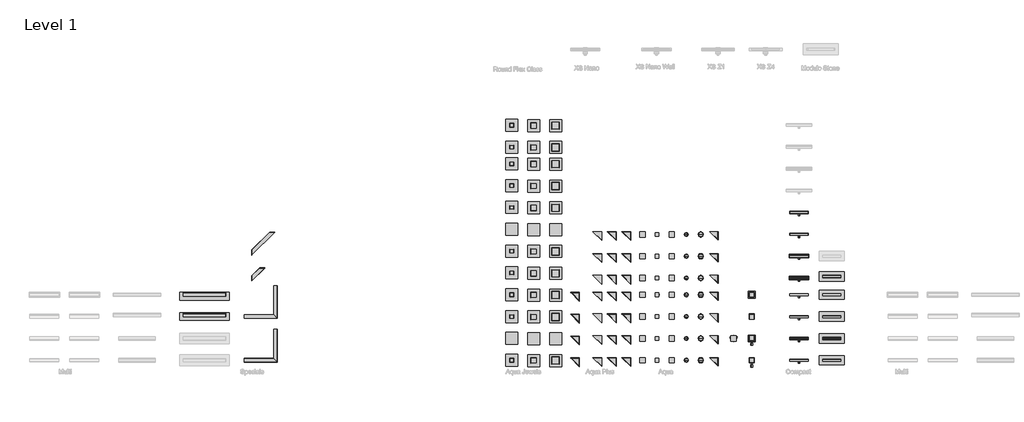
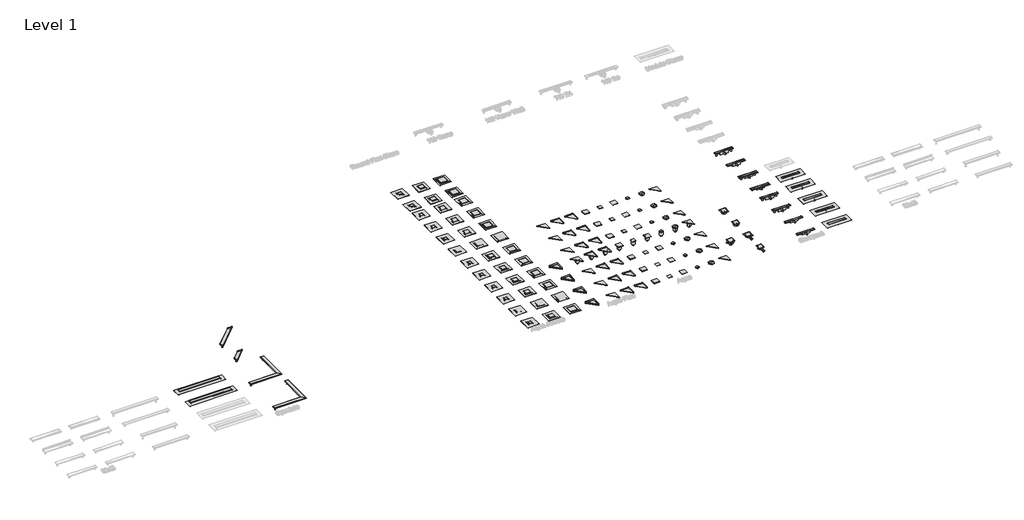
# One storey, part 3 of 23: 136 sanitary terminals.
"""IFC4 building model written with IfcOpenShell, lengths in millimetres."""

from ifc_helpers import new_model, si_unit, origin, place, context, project, spatial, transform, mapped, element, save
from components import sanitary_terminal_1823a797, sanitary_terminal_2f80e022, sanitary_terminal_5b34698b, sanitary_terminal_2ebfcd1c, sanitary_terminal_eb8b4586, sanitary_terminal_f8d560c6, sanitary_terminal_cf954fec, sanitary_terminal_14f323dd, sanitary_terminal_3431c1f4, sanitary_terminal_5c7f7aa6, sanitary_terminal_14ebe62b, sanitary_terminal_cd1ec674, sanitary_terminal_4a5be464, sanitary_terminal_ab72299f, sanitary_terminal_dddee02a, sanitary_terminal_49c4bee3, black_glass_10x10_94a9755f, black_glass_15x15_4ec12fde, black_glass_20x20_2d4f7b62, compact_d3044acb, compact_a988ca50, compact_608fc20b, compact_45fd4abb, compact_89d7015a, compact_d6b970c3, compact_b74792c9, compact_6f6b42fc, compact_ff_9ca3e479, compact_ff_39878ad4, compact_ff_16e5568f, compact_ff_ca326670, compact_ff_tile_d9a49791, compact_flange_e84be961, compact_flange_697ba35e, compact_tile_2c210a84, compact_tile_8fcec66e, multi_taf_wall_horizontal_outlet_high_50mm_fefc41ae, tile_10x10_495e2d9a, tile_10x10_58bf98e1, tile_15x15_625d1f21, tile_15x15_8973f844, tile_20x20_1db265bf, tile_20x20_2fca3c0a

model = new_model("IFC4")

# Units and contexts
model_context = context("Model", 3, world=origin())
ifc_project = project(units=[si_unit("LENGTHUNIT", "METRE", prefix="MILLI")], contexts=[model_context])

# Site, building, storey
site = spatial("IfcSite", under=ifc_project)
building = spatial("IfcBuilding", under=site)
storey = spatial("IfcBuildingStorey", under=building, Name="Level 1", Elevation=0.0)

# Sanitary terminals
placement = place(None, origin())
sanitary_terminal_shape = sanitary_terminal_1823a797(model_context)
element("IfcSanitaryTerminal", 1, ObjectType="NLRS_PF_52_UN_Aqua Brilliant_Easydrain : Brilliant onderuitloop 50mm", at=placement, inside=storey, context=model_context, shape_type="MappedRepresentation", body=[
    mapped(sanitary_terminal_shape, transform((60100.0, 8300.0, 0.0), x_axis=(1.0, 0.0, 0.0), y_axis=(0.0, 1.0, 0.0), z_axis=(0.0, 0.0, 1.0))),
])
sanitary_terminal_2_shape = sanitary_terminal_2f80e022(model_context)
element("IfcSanitaryTerminal", 2, ObjectType="NLRS_PF_52_UN_Aqua Delta_in_uitloop_Easydrain : Aqua Delta onderuitloop 50mm, zij-ingang 40mm", at=placement, inside=storey, context=model_context, shape_type="MappedRepresentation", body=[
    mapped(sanitary_terminal_2_shape, transform((59600.0, 10560.0, 0.0), x_axis=(1.0, 0.0, 0.0), y_axis=(0.0, 1.0, 0.0), z_axis=(0.0, 0.0, 1.0))),
])
element("IfcSanitaryTerminal", 3, ObjectType="NLRS_PF_52_UN_Aqua Delta_in_uitloop_Easydrain : Aqua Delta onderuitloop 50mm, zij-ingang 50mm", at=placement, inside=storey, context=model_context, shape_type="MappedRepresentation", body=[
    mapped(sanitary_terminal_2_shape, transform((59600.0, 11160.0, 0.0), x_axis=(1.0, 0.0, 0.0), y_axis=(0.0, 1.0, 0.0), z_axis=(0.0, 0.0, 1.0))),
])
element("IfcSanitaryTerminal", 4, ObjectType="NLRS_PF_52_UN_Aqua Delta_in_uitloop_Easydrain : Aqua Delta zijuitloop hoog 50mm, zij-ingang 40mm", at=placement, inside=storey, context=model_context, shape_type="MappedRepresentation", body=[
    mapped(sanitary_terminal_2_shape, transform((59600.0, 9960.0, 0.0), x_axis=(1.0, 0.0, 0.0), y_axis=(0.0, 1.0, 0.0), z_axis=(0.0, 0.0, 1.0))),
])
sanitary_terminal_3_shape = sanitary_terminal_5b34698b(model_context)
element("IfcSanitaryTerminal", 5, ObjectType="NLRS_PF_52_UN_Aqua Jewels Delta_in_uitloop_Easydrain : Aqua Jewels Delta zijuitloop hoog 50mm, zij-ingang 40mm", at=placement, inside=storey, context=model_context, shape_type="MappedRepresentation", body=[
    mapped(sanitary_terminal_3_shape, transform((55800.0, 8900.0, 0.0), x_axis=(1.0, 0.0, 0.0), y_axis=(0.0, 1.0, 0.0), z_axis=(0.0, 0.0, 1.0))),
])
element("IfcSanitaryTerminal", 6, ObjectType="NLRS_PF_52_UN_Aqua Jewels Delta_uitloop_Easydrain : Aqua Jewels Delta horizontal outlet low 40mm", at=placement, inside=storey, context=model_context, shape_type="MappedRepresentation", body=[
    mapped(sanitary_terminal_3_shape, transform((55800.0, 7700.0, 0.0), x_axis=(1.0, 0.0, 0.0), y_axis=(0.0, 1.0, 0.0), z_axis=(0.0, 0.0, 1.0))),
])
sanitary_terminal_4_shape = sanitary_terminal_2ebfcd1c(model_context)
element("IfcSanitaryTerminal", 7, ObjectType="NLRS_PF_52_UN_Aqua Plus Delta_in_uitloop_Easydrain : Aqua Plus Delta onderuitloop 50mm, zij-ingang 40mm", at=placement, inside=storey, context=model_context, shape_type="MappedRepresentation", body=[
    mapped(sanitary_terminal_4_shape, transform((56400.0, 10560.0, 0.0), x_axis=(1.0, 0.0, 0.0), y_axis=(0.0, 1.0, 0.0), z_axis=(0.0, 0.0, 1.0))),
])
element("IfcSanitaryTerminal", 8, ObjectType="NLRS_PF_52_UN_Aqua Plus Delta_in_uitloop_Easydrain : Aqua Plus Delta onderuitloop 50mm, zij-ingang 50mm", at=placement, inside=storey, context=model_context, shape_type="MappedRepresentation", body=[
    mapped(sanitary_terminal_4_shape, transform((56400.0, 11160.0, 0.0), x_axis=(1.0, 0.0, 0.0), y_axis=(0.0, 1.0, 0.0), z_axis=(0.0, 0.0, 1.0))),
])
element("IfcSanitaryTerminal", 9, ObjectType="NLRS_PF_52_UN_Aqua Plus Delta_in_uitloop_Easydrain : Aqua Plus Delta zijuitloop hoog 50mm, zij-ingang 40mm", at=placement, inside=storey, context=model_context, shape_type="MappedRepresentation", body=[
    mapped(sanitary_terminal_4_shape, transform((56400.0, 9960.0, 0.0), x_axis=(1.0, 0.0, 0.0), y_axis=(0.0, 1.0, 0.0), z_axis=(0.0, 0.0, 1.0))),
])
sanitary_terminal_5_shape = sanitary_terminal_eb8b4586(model_context)
element("IfcSanitaryTerminal", 10, ObjectType="NLRS_PF_52_UN_Aqua Plus Quattro_in_uitloop_Easydrain : Aqua Plus Quattro zijuitloop hoog 50mm, zij-ingang 40mm", at=placement, inside=storey, context=model_context, shape_type="MappedRepresentation", body=[
    mapped(sanitary_terminal_5_shape, transform((57600.0, 9960.0, 0.0), x_axis=(1.0, 0.0, 0.0), y_axis=(0.0, 1.0, 0.0), z_axis=(0.0, 0.0, 1.0))),
])
element("IfcSanitaryTerminal", 11, ObjectType="NLRS_PF_52_UN_Aqua Plus Quattro_in_uitloop_Easydrain : Aqua Plus Quattro onderuitloop 50mm, zij-ingang 40mm", at=placement, inside=storey, context=model_context, shape_type="MappedRepresentation", body=[
    mapped(sanitary_terminal_5_shape, transform((57600.0, 10560.0, 0.0), x_axis=(1.0, 0.0, 0.0), y_axis=(0.0, 1.0, 0.0), z_axis=(0.0, 0.0, 1.0))),
])
element("IfcSanitaryTerminal", 12, ObjectType="NLRS_PF_52_UN_Aqua Plus Quattro_in_uitloop_Easydrain : Aqua Plus Quattro onderuitloop 50mm, zij-ingang 50mm", at=placement, inside=storey, context=model_context, shape_type="MappedRepresentation", body=[
    mapped(sanitary_terminal_5_shape, transform((57600.0, 11160.0, 0.0), x_axis=(1.0, 0.0, 0.0), y_axis=(0.0, 1.0, 0.0), z_axis=(0.0, 0.0, 1.0))),
])
sanitary_terminal_6_shape = sanitary_terminal_f8d560c6(model_context)
element("IfcSanitaryTerminal", 13, ObjectType="NLRS_PF_52_UN_Aqua Quattro_in_uitloop_Easydrain : Aqua Quattro onderuitloop 50mm, zij-ingang 40mm", at=placement, inside=storey, context=model_context, shape_type="MappedRepresentation", body=[
    mapped(sanitary_terminal_6_shape, transform((58000.0, 10560.0, 0.0), x_axis=(1.0, 0.0, 0.0), y_axis=(0.0, 1.0, 0.0), z_axis=(0.0, 0.0, 1.0))),
])
element("IfcSanitaryTerminal", 14, ObjectType="NLRS_PF_52_UN_Aqua Quattro_in_uitloop_Easydrain : Aqua Quattro zijuitloop hoog 50mm, zij-ingang 40mm", at=placement, inside=storey, context=model_context, shape_type="MappedRepresentation", body=[
    mapped(sanitary_terminal_6_shape, transform((58000.0, 9960.0, 0.0), x_axis=(1.0, 0.0, 0.0), y_axis=(0.0, 1.0, 0.0), z_axis=(0.0, 0.0, 1.0))),
])
element("IfcSanitaryTerminal", 15, ObjectType="NLRS_PF_52_UN_Aqua Quattro_in_uitloop_Easydrain : Aqua Quattro zijuitloop hoog 50mm, zij-ingang 40mm", at=placement, inside=storey, context=model_context, shape_type="MappedRepresentation", body=[
    mapped(sanitary_terminal_6_shape, transform((58000.0, 11160.0, 0.0), x_axis=(1.0, 0.0, 0.0), y_axis=(0.0, 1.0, 0.0), z_axis=(0.0, 0.0, 1.0))),
])
sanitary_terminal_7_shape = sanitary_terminal_cf954fec(model_context)
element("IfcSanitaryTerminal", 16, ObjectType="NLRS_PF_52_UN_Aqua Round_in_uitloop_Easydrain : Aqua Round onderuitloop 50mm, zij-ingang 40mm", at=placement, inside=storey, context=model_context, shape_type="MappedRepresentation", body=[
    mapped(sanitary_terminal_7_shape, transform((58800.0, 10560.0, 0.0), x_axis=(1.0, 0.0, 0.0), y_axis=(0.0, 1.0, 0.0), z_axis=(0.0, 0.0, 1.0))),
])
element("IfcSanitaryTerminal", 17, ObjectType="NLRS_PF_52_UN_Aqua Round_in_uitloop_Easydrain : Aqua Round onderuitloop 50mm, zij-ingang 50mm", at=placement, inside=storey, context=model_context, shape_type="MappedRepresentation", body=[
    mapped(sanitary_terminal_7_shape, transform((58800.0, 11160.0, 0.0), x_axis=(1.0, 0.0, 0.0), y_axis=(0.0, 1.0, 0.0), z_axis=(0.0, 0.0, 1.0))),
])
element("IfcSanitaryTerminal", 18, ObjectType="NLRS_PF_52_UN_Aqua Round_in_uitloop_Easydrain : Aqua Round zijuitloop hoog 50mm, zij-ingang 40mm", at=placement, inside=storey, context=model_context, shape_type="MappedRepresentation", body=[
    mapped(sanitary_terminal_7_shape, transform((58800.0, 9960.0, 0.0), x_axis=(1.0, 0.0, 0.0), y_axis=(0.0, 1.0, 0.0), z_axis=(0.0, 0.0, 1.0))),
])
sanitary_terminal_8_shape = sanitary_terminal_14f323dd(model_context)
element("IfcSanitaryTerminal", 19, ObjectType="NLRS_PF_52_UN_Multi Square in_uitloop_Easydrain : Multi Square zijuitloop hoog 50mm, zij-ingang 40mm", at=placement, inside=storey, context=model_context, shape_type="MappedRepresentation", body=[
    mapped(sanitary_terminal_8_shape, transform((46649.785592, 9750.0, 0.0), x_axis=(1.0, 0.0, 0.0), y_axis=(0.0, 1.0, 0.0), z_axis=(0.0, 0.0, 1.0))),
])
sanitary_terminal_9_shape = sanitary_terminal_3431c1f4(model_context)
element("IfcSanitaryTerminal", 20, ObjectType="NLRS_PF_52_UN_Multi Trapezium uitloop_Easydrain : Multi Trapezium horizontal outlet low 40mm", at=placement, inside=storey, context=model_context, shape_type="MappedRepresentation", body=[
    mapped(sanitary_terminal_9_shape, transform((46855.6192717, 10236.1309771, 0.0), x_axis=(1.0, 0.0, 0.0), y_axis=(0.0, 1.0, 0.0), z_axis=(0.0, 0.0, 1.0))),
])
sanitary_terminal_10_shape = sanitary_terminal_5c7f7aa6(model_context)
element("IfcSanitaryTerminal", 21, ObjectType="NLRS_PF_52_UN_Aqua Plus Delta_in_uitloop_Easydrain : Aqua Plus Delta zijuitloop hoog 50mm, zij-ingang 40mm", at=placement, inside=storey, context=model_context, shape_type="MappedRepresentation", body=[
    mapped(sanitary_terminal_10_shape, transform((56800.0, 9960.0, 0.0), x_axis=(1.0, 0.0, 0.0), y_axis=(0.0, 1.0, 0.0), z_axis=(0.0, 0.0, 1.0))),
])
element("IfcSanitaryTerminal", 22, ObjectType="NLRS_PF_52_UN_Aqua Plus Delta_in_uitloop_Easydrain : Aqua Plus Delta onderuitloop 50mm, zij-ingang 40mm", at=placement, inside=storey, context=model_context, shape_type="MappedRepresentation", body=[
    mapped(sanitary_terminal_10_shape, transform((56800.0, 10560.0, 0.0), x_axis=(1.0, 0.0, 0.0), y_axis=(0.0, 1.0, 0.0), z_axis=(0.0, 0.0, 1.0))),
])
element("IfcSanitaryTerminal", 23, ObjectType="NLRS_PF_52_UN_Aqua Plus Delta_in_uitloop_Easydrain : Aqua Plus Delta onderuitloop 50mm, zij-ingang 50mm", at=placement, inside=storey, context=model_context, shape_type="MappedRepresentation", body=[
    mapped(sanitary_terminal_10_shape, transform((56800.0, 11160.0, 0.0), x_axis=(1.0, 0.0, 0.0), y_axis=(0.0, 1.0, 0.0), z_axis=(0.0, 0.0, 1.0))),
])
element("IfcSanitaryTerminal", 24, ObjectType="NLRS_PF_52_UN_Aqua Plus Delta_in_uitloop_Easydrain : Aqua Plus Delta zijuitloop hoog 50mm, zij-ingang 40mm", at=placement, inside=storey, context=model_context, shape_type="MappedRepresentation", body=[
    mapped(sanitary_terminal_10_shape, transform((57200.0, 9960.0, 0.0), x_axis=(1.0, 0.0, 0.0), y_axis=(0.0, 1.0, 0.0), z_axis=(0.0, 0.0, 1.0))),
])
element("IfcSanitaryTerminal", 25, ObjectType="NLRS_PF_52_UN_Aqua Plus Delta_in_uitloop_Easydrain : Aqua Plus Delta onderuitloop 50mm, zij-ingang 40mm", at=placement, inside=storey, context=model_context, shape_type="MappedRepresentation", body=[
    mapped(sanitary_terminal_10_shape, transform((57200.0, 10560.0, 0.0), x_axis=(1.0, 0.0, 0.0), y_axis=(0.0, 1.0, 0.0), z_axis=(0.0, 0.0, 1.0))),
])
element("IfcSanitaryTerminal", 26, ObjectType="NLRS_PF_52_UN_Aqua Plus Delta_in_uitloop_Easydrain : Aqua Plus Delta onderuitloop 50mm, zij-ingang 50mm", at=placement, inside=storey, context=model_context, shape_type="MappedRepresentation", body=[
    mapped(sanitary_terminal_10_shape, transform((57200.0, 11160.0, 0.0), x_axis=(1.0, 0.0, 0.0), y_axis=(0.0, 1.0, 0.0), z_axis=(0.0, 0.0, 1.0))),
])
sanitary_terminal_11_shape = sanitary_terminal_14ebe62b(model_context)
element("IfcSanitaryTerminal", 27, ObjectType="NLRS_PF_52_UN_Aqua Quattro_in_uitloop_Easydrain : Aqua Quattro zijuitloop hoog 50mm, zij-ingang 40mm", at=placement, inside=storey, context=model_context, shape_type="MappedRepresentation", body=[
    mapped(sanitary_terminal_11_shape, transform((58400.0, 9960.0, 0.0), x_axis=(1.0, 0.0, 0.0), y_axis=(0.0, 1.0, 0.0), z_axis=(0.0, 0.0, 1.0))),
])
element("IfcSanitaryTerminal", 28, ObjectType="NLRS_PF_52_UN_Aqua Quattro_in_uitloop_Easydrain : Aqua Quattro zijuitloop hoog 50mm, zij-ingang 40mm", at=placement, inside=storey, context=model_context, shape_type="MappedRepresentation", body=[
    mapped(sanitary_terminal_11_shape, transform((58400.0, 11160.0, 0.0), x_axis=(1.0, 0.0, 0.0), y_axis=(0.0, 1.0, 0.0), z_axis=(0.0, 0.0, 1.0))),
])
element("IfcSanitaryTerminal", 29, ObjectType="NLRS_PF_52_UN_Aqua Quattro_in_uitloop_Easydrain : Aqua Quattro onderuitloop 50mm, zij-ingang 40mm", at=placement, inside=storey, context=model_context, shape_type="MappedRepresentation", body=[
    mapped(sanitary_terminal_11_shape, transform((58400.0, 10560.0, 0.0), x_axis=(1.0, 0.0, 0.0), y_axis=(0.0, 1.0, 0.0), z_axis=(0.0, 0.0, 1.0))),
])
sanitary_terminal_12_shape = sanitary_terminal_cd1ec674(model_context)
element("IfcSanitaryTerminal", 30, ObjectType="NLRS_PF_52_UN_Aqua Round_in_uitloop_Easydrain : Aqua Round zijuitloop hoog 50mm, zij-ingang 40mm", at=placement, inside=storey, context=model_context, shape_type="MappedRepresentation", body=[
    mapped(sanitary_terminal_12_shape, transform((59200.0, 9960.0, 0.0), x_axis=(1.0, 0.0, 0.0), y_axis=(0.0, 1.0, 0.0), z_axis=(0.0, 0.0, 1.0))),
])
element("IfcSanitaryTerminal", 31, ObjectType="NLRS_PF_52_UN_Aqua Round_in_uitloop_Easydrain : Aqua Round onderuitloop 50mm, zij-ingang 50mm", at=placement, inside=storey, context=model_context, shape_type="MappedRepresentation", body=[
    mapped(sanitary_terminal_12_shape, transform((59200.0, 11160.0, 0.0), x_axis=(1.0, 0.0, 0.0), y_axis=(0.0, 1.0, 0.0), z_axis=(0.0, 0.0, 1.0))),
])
element("IfcSanitaryTerminal", 32, ObjectType="NLRS_PF_52_UN_Aqua Round_in_uitloop_Easydrain : Aqua Round onderuitloop 50mm, zij-ingang 40mm", at=placement, inside=storey, context=model_context, shape_type="MappedRepresentation", body=[
    mapped(sanitary_terminal_12_shape, transform((59200.0, 10560.0, 0.0), x_axis=(1.0, 0.0, 0.0), y_axis=(0.0, 1.0, 0.0), z_axis=(0.0, 0.0, 1.0))),
])
sanitary_terminal_13_shape = sanitary_terminal_4a5be464(model_context)
element("IfcSanitaryTerminal", 33, ObjectType="NLRS_PF_52_UN_Multi TAF Wall in_uitloop_Easydrain : Multi TAF Wall zijuitloop hoog 50mm, zij-ingang 40mm", at=placement, inside=storey, context=model_context, shape_type="MappedRepresentation", body=[
    mapped(sanitary_terminal_13_shape, transform((45199.785592, 9500.0, 0.0), x_axis=(1.0, 0.0, 0.0), y_axis=(0.0, 1.0, 0.0), z_axis=(0.0, 0.0, 1.0))),
])
sanitary_terminal_14_shape = sanitary_terminal_ab72299f(model_context)
element("IfcSanitaryTerminal", 34, ObjectType="NLRS_PF_52_UN_Multi Trapezium in_uitloop_Easydrain : Multi Trapezium zijuitloop hoog 50mm, zij-ingang 40mm", at=placement, inside=storey, context=model_context, shape_type="MappedRepresentation", body=[
    mapped(sanitary_terminal_14_shape, transform((46855.6192717, 11225.4226363, 0.0), x_axis=(1.0, 0.0, 0.0), y_axis=(0.0, 1.0, 0.0), z_axis=(0.0, 0.0, 1.0))),
])
sanitary_terminal_15_shape = sanitary_terminal_dddee02a(model_context)
element("IfcSanitaryTerminal", 35, ObjectType="NLRS_PF_52_UN_Aqua Jewels Delta_in_uitloop_Easydrain : Aqua Jewels Delta zijuitloop hoog 50mm, zij-ingang 40mm", at=placement, inside=storey, context=model_context, shape_type="MappedRepresentation", body=[
    mapped(sanitary_terminal_15_shape, transform((55800.0, 9500.0, 0.0), x_axis=(1.0, 0.0, 0.0), y_axis=(0.0, 1.0, 0.0), z_axis=(0.0, 0.0, 1.0))),
])
element("IfcSanitaryTerminal", 36, ObjectType="NLRS_PF_52_UN_Aqua Jewels Delta_uitloop_Easydrain : Aqua Jewels Delta horizontal outlet low 40mm", at=placement, inside=storey, context=model_context, shape_type="MappedRepresentation", body=[
    mapped(sanitary_terminal_15_shape, transform((55800.0, 8300.0, 0.0), x_axis=(1.0, 0.0, 0.0), y_axis=(0.0, 1.0, 0.0), z_axis=(0.0, 0.0, 1.0))),
])
sanitary_terminal_16_shape = sanitary_terminal_49c4bee3(model_context)
element("IfcSanitaryTerminal", 37, ObjectType="Z_DO_NOT_USE_NLRS_PF_52_UN_Multi sifon uitloop_Easydrain : onderuitloop 50mm", at=placement, inside=storey, context=model_context, shape_type="MappedRepresentation", body=[
    mapped(sanitary_terminal_16_shape, transform((56400.0, 9500.0, -10.0), x_axis=(1.0, 0.0, 0.0), y_axis=(0.0, 1.0, 0.0), z_axis=(0.0, 0.0, 1.0))),
])
element("IfcSanitaryTerminal", 38, ObjectType="Z_DO_NOT_USE_NLRS_PF_52_UN_Multi sifon uitloop_Easydrain : onderuitloop 50mm", at=placement, inside=storey, context=model_context, shape_type="MappedRepresentation", body=[
    mapped(sanitary_terminal_16_shape, transform((56800.0, 9500.0, -20.0), x_axis=(1.0, 0.0, 0.0), y_axis=(0.0, 1.0, 0.0), z_axis=(0.0, 0.0, 1.0))),
])
element("IfcSanitaryTerminal", 39, ObjectType="Z_DO_NOT_USE_NLRS_PF_52_UN_Multi sifon uitloop_Easydrain : onderuitloop 50mm", at=placement, inside=storey, context=model_context, shape_type="MappedRepresentation", body=[
    mapped(sanitary_terminal_16_shape, transform((57200.0, 9500.0, -20.0), x_axis=(1.0, 0.0, 0.0), y_axis=(0.0, 1.0, 0.0), z_axis=(0.0, 0.0, 1.0))),
])
element("IfcSanitaryTerminal", 40, ObjectType="Z_DO_NOT_USE_NLRS_PF_52_UN_Multi sifon uitloop_Easydrain : onderuitloop 50mm", at=placement, inside=storey, context=model_context, shape_type="MappedRepresentation", body=[
    mapped(sanitary_terminal_16_shape, transform((59600.0, 9500.0, -14.0), x_axis=(1.0, 0.0, 0.0), y_axis=(0.0, 1.0, 0.0), z_axis=(0.0, 0.0, 1.0))),
])
element("IfcSanitaryTerminal", 41, ObjectType="Z_DO_NOT_USE_NLRS_PF_52_UN_Multi sifon uitloop_Easydrain : onderuitloop 50mm", at=placement, inside=storey, context=model_context, shape_type="MappedRepresentation", body=[
    mapped(sanitary_terminal_16_shape, transform((57600.0, 9500.0, -20.5), x_axis=(1.0, 0.0, 0.0), y_axis=(0.0, 1.0, 0.0), z_axis=(0.0, 0.0, 1.0))),
])
element("IfcSanitaryTerminal", 42, ObjectType="Z_DO_NOT_USE_NLRS_PF_52_UN_Multi sifon uitloop_Easydrain : onderuitloop 50mm", at=placement, inside=storey, context=model_context, shape_type="MappedRepresentation", body=[
    mapped(sanitary_terminal_16_shape, transform((58000.0, 9500.0, -11.0), x_axis=(1.0, 0.0, 0.0), y_axis=(0.0, 1.0, 0.0), z_axis=(0.0, 0.0, 1.0))),
])
element("IfcSanitaryTerminal", 43, ObjectType="Z_DO_NOT_USE_NLRS_PF_52_UN_Multi sifon uitloop_Easydrain : onderuitloop 50mm", at=placement, inside=storey, context=model_context, shape_type="MappedRepresentation", body=[
    mapped(sanitary_terminal_16_shape, transform((58400.0, 9500.0, -11.0), x_axis=(1.0, 0.0, 0.0), y_axis=(0.0, 1.0, 0.0), z_axis=(0.0, 0.0, 1.0))),
])
element("IfcSanitaryTerminal", 44, ObjectType="Z_DO_NOT_USE_NLRS_PF_52_UN_Multi sifon uitloop_Easydrain : onderuitloop 50mm", at=placement, inside=storey, context=model_context, shape_type="MappedRepresentation", body=[
    mapped(sanitary_terminal_16_shape, transform((58800.0, 9500.0, -11.0), x_axis=(1.0, 0.0, 0.0), y_axis=(0.0, 1.0, 0.0), z_axis=(0.0, 0.0, 1.0))),
])
element("IfcSanitaryTerminal", 45, ObjectType="Z_DO_NOT_USE_NLRS_PF_52_UN_Multi sifon uitloop_Easydrain : onderuitloop 50mm", at=placement, inside=storey, context=model_context, shape_type="MappedRepresentation", body=[
    mapped(sanitary_terminal_16_shape, transform((59200.0, 9500.0, -18.0), x_axis=(1.0, 0.0, 0.0), y_axis=(0.0, 1.0, 0.0), z_axis=(0.0, 0.0, 1.0))),
])
element("IfcSanitaryTerminal", 46, ObjectType="NLRS_PF_52_UN_Aqua Delta_uitloop_Easydrain : Aqua Delta horizontal outlet high 50mm", at=placement, inside=storey, context=model_context, shape_type="MappedRepresentation", body=[
    mapped(sanitary_terminal_2_shape, transform((59600.0, 8900.0, 0.0), x_axis=(1.0, 0.0, 0.0), y_axis=(0.0, 1.0, 0.0), z_axis=(0.0, 0.0, 1.0))),
])
element("IfcSanitaryTerminal", 47, ObjectType="NLRS_PF_52_UN_Aqua Delta_uitloop_Easydrain : Aqua Delta horizontal outlet low 40mm", at=placement, inside=storey, context=model_context, shape_type="MappedRepresentation", body=[
    mapped(sanitary_terminal_2_shape, transform((59600.0, 7700.0, 0.0), x_axis=(1.0, 0.0, 0.0), y_axis=(0.0, 1.0, 0.0), z_axis=(0.0, 0.0, 1.0))),
])
element("IfcSanitaryTerminal", 48, ObjectType="NLRS_PF_52_UN_Aqua Delta_uitloop_Easydrain : Aqua Delta horizontal outlet low 50mm", at=placement, inside=storey, context=model_context, shape_type="MappedRepresentation", body=[
    mapped(sanitary_terminal_2_shape, transform((59600.0, 8300.0, 0.0), x_axis=(1.0, 0.0, 0.0), y_axis=(0.0, 1.0, 0.0), z_axis=(0.0, 0.0, 1.0))),
])
element("IfcSanitaryTerminal", 49, ObjectType="NLRS_PF_52_UN_Aqua Delta_uitloop_Easydrain : Aqua Delta vertical outlet 50mm", at=placement, inside=storey, context=model_context, shape_type="MappedRepresentation", body=[
    mapped(sanitary_terminal_2_shape, transform((59600.0, 9500.0, 0.0), x_axis=(1.0, 0.0, 0.0), y_axis=(0.0, 1.0, 0.0), z_axis=(0.0, 0.0, 1.0))),
])
element("IfcSanitaryTerminal", 50, ObjectType="NLRS_PF_52_UN_Aqua Plus Delta_uitloop_Easydrain : Aqua Plus Delta horizontal outlet high 50mm", at=placement, inside=storey, context=model_context, shape_type="MappedRepresentation", body=[
    mapped(sanitary_terminal_4_shape, transform((56400.0, 8900.0, 0.0), x_axis=(1.0, 0.0, 0.0), y_axis=(0.0, 1.0, 0.0), z_axis=(0.0, 0.0, 1.0))),
])
element("IfcSanitaryTerminal", 51, ObjectType="NLRS_PF_52_UN_Aqua Plus Delta_uitloop_Easydrain : Aqua Plus Delta horizontal outlet high 50mm", at=placement, inside=storey, context=model_context, shape_type="MappedRepresentation", body=[
    mapped(sanitary_terminal_10_shape, transform((56800.0, 8900.0, 0.0), x_axis=(1.0, 0.0, 0.0), y_axis=(0.0, 1.0, 0.0), z_axis=(0.0, 0.0, 1.0))),
])
element("IfcSanitaryTerminal", 52, ObjectType="NLRS_PF_52_UN_Aqua Plus Delta_uitloop_Easydrain : Aqua Plus Delta horizontal outlet high 50mm", at=placement, inside=storey, context=model_context, shape_type="MappedRepresentation", body=[
    mapped(sanitary_terminal_10_shape, transform((57200.0, 8900.0, 0.0), x_axis=(1.0, 0.0, 0.0), y_axis=(0.0, 1.0, 0.0), z_axis=(0.0, 0.0, 1.0))),
])
element("IfcSanitaryTerminal", 53, ObjectType="NLRS_PF_52_UN_Aqua Plus Delta_uitloop_Easydrain : Aqua Plus Delta horizontal outlet low 40mm", at=placement, inside=storey, context=model_context, shape_type="MappedRepresentation", body=[
    mapped(sanitary_terminal_4_shape, transform((56400.0, 7700.0, 0.0), x_axis=(1.0, 0.0, 0.0), y_axis=(0.0, 1.0, 0.0), z_axis=(0.0, 0.0, 1.0))),
])
element("IfcSanitaryTerminal", 54, ObjectType="NLRS_PF_52_UN_Aqua Plus Delta_uitloop_Easydrain : Aqua Plus Delta horizontal outlet low 40mm", at=placement, inside=storey, context=model_context, shape_type="MappedRepresentation", body=[
    mapped(sanitary_terminal_10_shape, transform((56800.0, 7700.0, 0.0), x_axis=(1.0, 0.0, 0.0), y_axis=(0.0, 1.0, 0.0), z_axis=(0.0, 0.0, 1.0))),
])
element("IfcSanitaryTerminal", 55, ObjectType="NLRS_PF_52_UN_Aqua Plus Delta_uitloop_Easydrain : Aqua Plus Delta horizontal outlet low 40mm", at=placement, inside=storey, context=model_context, shape_type="MappedRepresentation", body=[
    mapped(sanitary_terminal_10_shape, transform((57200.0, 7700.0, 0.0), x_axis=(1.0, 0.0, 0.0), y_axis=(0.0, 1.0, 0.0), z_axis=(0.0, 0.0, 1.0))),
])
element("IfcSanitaryTerminal", 56, ObjectType="NLRS_PF_52_UN_Aqua Plus Delta_uitloop_Easydrain : Aqua Plus Delta horizontal outlet low 50mm", at=placement, inside=storey, context=model_context, shape_type="MappedRepresentation", body=[
    mapped(sanitary_terminal_4_shape, transform((56400.0, 8300.0, 0.0), x_axis=(1.0, 0.0, 0.0), y_axis=(0.0, 1.0, 0.0), z_axis=(0.0, 0.0, 1.0))),
])
element("IfcSanitaryTerminal", 57, ObjectType="NLRS_PF_52_UN_Aqua Plus Delta_uitloop_Easydrain : Aqua Plus Delta horizontal outlet low 50mm", at=placement, inside=storey, context=model_context, shape_type="MappedRepresentation", body=[
    mapped(sanitary_terminal_10_shape, transform((56800.0, 8300.0, 0.0), x_axis=(1.0, 0.0, 0.0), y_axis=(0.0, 1.0, 0.0), z_axis=(0.0, 0.0, 1.0))),
])
element("IfcSanitaryTerminal", 58, ObjectType="NLRS_PF_52_UN_Aqua Plus Delta_uitloop_Easydrain : Aqua Plus Delta horizontal outlet low 50mm", at=placement, inside=storey, context=model_context, shape_type="MappedRepresentation", body=[
    mapped(sanitary_terminal_10_shape, transform((57200.0, 8300.0, 0.0), x_axis=(1.0, 0.0, 0.0), y_axis=(0.0, 1.0, 0.0), z_axis=(0.0, 0.0, 1.0))),
])
element("IfcSanitaryTerminal", 59, ObjectType="NLRS_PF_52_UN_Aqua Plus Delta_uitloop_Easydrain : Aqua Plus Delta vertical outlet 50mm", at=placement, inside=storey, context=model_context, shape_type="MappedRepresentation", body=[
    mapped(sanitary_terminal_4_shape, transform((56400.0, 9500.0, 0.0), x_axis=(1.0, 0.0, 0.0), y_axis=(0.0, 1.0, 0.0), z_axis=(0.0, 0.0, 1.0))),
])
element("IfcSanitaryTerminal", 60, ObjectType="NLRS_PF_52_UN_Aqua Plus Delta_uitloop_Easydrain : Aqua Plus Delta vertical outlet 50mm", at=placement, inside=storey, context=model_context, shape_type="MappedRepresentation", body=[
    mapped(sanitary_terminal_10_shape, transform((56800.0, 9500.0, 0.0), x_axis=(1.0, 0.0, 0.0), y_axis=(0.0, 1.0, 0.0), z_axis=(0.0, 0.0, 1.0))),
])
element("IfcSanitaryTerminal", 61, ObjectType="NLRS_PF_52_UN_Aqua Plus Delta_uitloop_Easydrain : Aqua Plus Delta vertical outlet 50mm", at=placement, inside=storey, context=model_context, shape_type="MappedRepresentation", body=[
    mapped(sanitary_terminal_10_shape, transform((57200.0, 9500.0, 0.0), x_axis=(1.0, 0.0, 0.0), y_axis=(0.0, 1.0, 0.0), z_axis=(0.0, 0.0, 1.0))),
])
element("IfcSanitaryTerminal", 62, ObjectType="NLRS_PF_52_UN_Aqua Plus Quattro_uitloop_Easydrain : Aqua Plus Quattro Horizontal Outlet Low 40mm", at=placement, inside=storey, context=model_context, shape_type="MappedRepresentation", body=[
    mapped(sanitary_terminal_5_shape, transform((57600.0, 7700.0, 0.0), x_axis=(1.0, 0.0, 0.0), y_axis=(0.0, 1.0, 0.0), z_axis=(0.0, 0.0, 1.0))),
])
element("IfcSanitaryTerminal", 63, ObjectType="NLRS_PF_52_UN_Aqua Plus Quattro_uitloop_Easydrain : Aqua Plus Quattro Horizontal outlet Low 50mm", at=placement, inside=storey, context=model_context, shape_type="MappedRepresentation", body=[
    mapped(sanitary_terminal_5_shape, transform((57600.0, 8300.0, 0.0), x_axis=(1.0, 0.0, 0.0), y_axis=(0.0, 1.0, 0.0), z_axis=(0.0, 0.0, 1.0))),
])
element("IfcSanitaryTerminal", 64, ObjectType="NLRS_PF_52_UN_Aqua Plus Quattro_uitloop_Easydrain : Aqua Plus Quattro Horizontal outlet high 50mm", at=placement, inside=storey, context=model_context, shape_type="MappedRepresentation", body=[
    mapped(sanitary_terminal_5_shape, transform((57600.0, 8900.0, 0.0), x_axis=(1.0, 0.0, 0.0), y_axis=(0.0, 1.0, 0.0), z_axis=(0.0, 0.0, 1.0))),
])
element("IfcSanitaryTerminal", 65, ObjectType="NLRS_PF_52_UN_Aqua Plus Quattro_uitloop_Easydrain : Aqua Plus Quattro Vertical Outlet 50mm", at=placement, inside=storey, context=model_context, shape_type="MappedRepresentation", body=[
    mapped(sanitary_terminal_5_shape, transform((57600.0, 9500.0, 0.0), x_axis=(1.0, 0.0, 0.0), y_axis=(0.0, 1.0, 0.0), z_axis=(0.0, 0.0, 1.0))),
])
element("IfcSanitaryTerminal", 66, ObjectType="NLRS_PF_52_UN_Aqua Quattro_uitloop_Easydrain : Aqua Quattro Horizontal Outlet Low 40mm", at=placement, inside=storey, context=model_context, shape_type="MappedRepresentation", body=[
    mapped(sanitary_terminal_6_shape, transform((58000.0, 7700.0, 0.0), x_axis=(1.0, 0.0, 0.0), y_axis=(0.0, 1.0, 0.0), z_axis=(0.0, 0.0, 1.0))),
])
element("IfcSanitaryTerminal", 67, ObjectType="NLRS_PF_52_UN_Aqua Quattro_uitloop_Easydrain : Aqua Quattro Horizontal Outlet Low 40mm", at=placement, inside=storey, context=model_context, shape_type="MappedRepresentation", body=[
    mapped(sanitary_terminal_11_shape, transform((58400.0, 7700.0, 0.0), x_axis=(1.0, 0.0, 0.0), y_axis=(0.0, 1.0, 0.0), z_axis=(0.0, 0.0, 1.0))),
])
element("IfcSanitaryTerminal", 68, ObjectType="NLRS_PF_52_UN_Aqua Quattro_uitloop_Easydrain : Aqua Quattro Horizontal outlet Low 50mm", at=placement, inside=storey, context=model_context, shape_type="MappedRepresentation", body=[
    mapped(sanitary_terminal_6_shape, transform((58000.0, 8300.0, 0.0), x_axis=(1.0, 0.0, 0.0), y_axis=(0.0, 1.0, 0.0), z_axis=(0.0, 0.0, 1.0))),
])
element("IfcSanitaryTerminal", 69, ObjectType="NLRS_PF_52_UN_Aqua Quattro_uitloop_Easydrain : Aqua Quattro Horizontal outlet Low 50mm", at=placement, inside=storey, context=model_context, shape_type="MappedRepresentation", body=[
    mapped(sanitary_terminal_11_shape, transform((58400.0, 8300.0, 0.0), x_axis=(1.0, 0.0, 0.0), y_axis=(0.0, 1.0, 0.0), z_axis=(0.0, 0.0, 1.0))),
])
element("IfcSanitaryTerminal", 70, ObjectType="NLRS_PF_52_UN_Aqua Quattro_uitloop_Easydrain : Aqua Quattro Horizontal outlet high 50mm", at=placement, inside=storey, context=model_context, shape_type="MappedRepresentation", body=[
    mapped(sanitary_terminal_6_shape, transform((58000.0, 8900.0, 0.0), x_axis=(1.0, 0.0, 0.0), y_axis=(0.0, 1.0, 0.0), z_axis=(0.0, 0.0, 1.0))),
])
element("IfcSanitaryTerminal", 71, ObjectType="NLRS_PF_52_UN_Aqua Quattro_uitloop_Easydrain : Aqua Quattro Horizontal outlet high 50mm", at=placement, inside=storey, context=model_context, shape_type="MappedRepresentation", body=[
    mapped(sanitary_terminal_11_shape, transform((58400.0, 8900.0, 0.0), x_axis=(1.0, 0.0, 0.0), y_axis=(0.0, 1.0, 0.0), z_axis=(0.0, 0.0, 1.0))),
])
element("IfcSanitaryTerminal", 72, ObjectType="NLRS_PF_52_UN_Aqua Quattro_uitloop_Easydrain : Aqua Quattro Vertical Outlet 50mm", at=placement, inside=storey, context=model_context, shape_type="MappedRepresentation", body=[
    mapped(sanitary_terminal_6_shape, transform((58000.0, 9500.0, 0.0), x_axis=(1.0, 0.0, 0.0), y_axis=(0.0, 1.0, 0.0), z_axis=(0.0, 0.0, 1.0))),
])
element("IfcSanitaryTerminal", 73, ObjectType="NLRS_PF_52_UN_Aqua Quattro_uitloop_Easydrain : Aqua Quattro Vertical Outlet 50mm", at=placement, inside=storey, context=model_context, shape_type="MappedRepresentation", body=[
    mapped(sanitary_terminal_11_shape, transform((58400.0, 9500.0, 0.0), x_axis=(1.0, 0.0, 0.0), y_axis=(0.0, 1.0, 0.0), z_axis=(0.0, 0.0, 1.0))),
])
element("IfcSanitaryTerminal", 74, ObjectType="NLRS_PF_52_UN_Aqua Round_uitloop_Easydrain : Aqua Round Horizontal Outlet Low 40mm", at=placement, inside=storey, context=model_context, shape_type="MappedRepresentation", body=[
    mapped(sanitary_terminal_7_shape, transform((58800.0, 7700.0, 0.0), x_axis=(1.0, 0.0, 0.0), y_axis=(0.0, 1.0, 0.0), z_axis=(0.0, 0.0, 1.0))),
])
element("IfcSanitaryTerminal", 75, ObjectType="NLRS_PF_52_UN_Aqua Round_uitloop_Easydrain : Aqua Round Horizontal Outlet Low 40mm", at=placement, inside=storey, context=model_context, shape_type="MappedRepresentation", body=[
    mapped(sanitary_terminal_12_shape, transform((59200.0, 7700.0, 0.0), x_axis=(1.0, 0.0, 0.0), y_axis=(0.0, 1.0, 0.0), z_axis=(0.0, 0.0, 1.0))),
])
element("IfcSanitaryTerminal", 76, ObjectType="NLRS_PF_52_UN_Aqua Round_uitloop_Easydrain : Aqua Round Horizontal outlet Low 50mm", at=placement, inside=storey, context=model_context, shape_type="MappedRepresentation", body=[
    mapped(sanitary_terminal_7_shape, transform((58800.0, 8300.0, 0.0), x_axis=(1.0, 0.0, 0.0), y_axis=(0.0, 1.0, 0.0), z_axis=(0.0, 0.0, 1.0))),
])
element("IfcSanitaryTerminal", 77, ObjectType="NLRS_PF_52_UN_Aqua Round_uitloop_Easydrain : Aqua Round Horizontal outlet Low 50mm", at=placement, inside=storey, context=model_context, shape_type="MappedRepresentation", body=[
    mapped(sanitary_terminal_12_shape, transform((59200.0, 8300.0, 0.0), x_axis=(1.0, 0.0, 0.0), y_axis=(0.0, 1.0, 0.0), z_axis=(0.0, 0.0, 1.0))),
])
element("IfcSanitaryTerminal", 78, ObjectType="NLRS_PF_52_UN_Aqua Round_uitloop_Easydrain : Aqua Round Horizontal outlet high 50mm", at=placement, inside=storey, context=model_context, shape_type="MappedRepresentation", body=[
    mapped(sanitary_terminal_7_shape, transform((58800.0, 8900.0, 0.0), x_axis=(1.0, 0.0, 0.0), y_axis=(0.0, 1.0, 0.0), z_axis=(0.0, 0.0, 1.0))),
])
element("IfcSanitaryTerminal", 79, ObjectType="NLRS_PF_52_UN_Aqua Round_uitloop_Easydrain : Aqua Round Horizontal outlet high 50mm", at=placement, inside=storey, context=model_context, shape_type="MappedRepresentation", body=[
    mapped(sanitary_terminal_12_shape, transform((59200.0, 8900.0, 0.0), x_axis=(1.0, 0.0, 0.0), y_axis=(0.0, 1.0, 0.0), z_axis=(0.0, 0.0, 1.0))),
])
element("IfcSanitaryTerminal", 80, ObjectType="NLRS_PF_52_UN_Aqua Round_uitloop_Easydrain : Aqua Round Vertical Outlet 50mm", at=placement, inside=storey, context=model_context, shape_type="MappedRepresentation", body=[
    mapped(sanitary_terminal_7_shape, transform((58800.0, 9500.0, 0.0), x_axis=(1.0, 0.0, 0.0), y_axis=(0.0, 1.0, 0.0), z_axis=(0.0, 0.0, 1.0))),
])
element("IfcSanitaryTerminal", 81, ObjectType="NLRS_PF_52_UN_Aqua Round_uitloop_Easydrain : Aqua Round Vertical Outlet 50mm", at=placement, inside=storey, context=model_context, shape_type="MappedRepresentation", body=[
    mapped(sanitary_terminal_12_shape, transform((59200.0, 9500.0, 0.0), x_axis=(1.0, 0.0, 0.0), y_axis=(0.0, 1.0, 0.0), z_axis=(0.0, 0.0, 1.0))),
])
black_glass_10x10_shape = black_glass_10x10_94a9755f(model_context)
element("IfcSanitaryTerminal", 82, ObjectType="Z_DO_NOT_USE_NLRS_PF_52_UN_Aqua Jewels Quattro Complete_Easydrain : Black Glass 10x10", at=placement, inside=storey, context=model_context, shape_type="MappedRepresentation", body=[
    mapped(black_glass_10x10_shape, transform((54000.0, 8900.0, 0.0), x_axis=(1.0, 0.0, 0.0), y_axis=(0.0, 1.0, 0.0), z_axis=(0.0, 0.0, 1.0))),
])
element("IfcSanitaryTerminal", 83, ObjectType="Z_DO_NOT_USE_NLRS_PF_52_UN_Aqua Jewels Quattro Complete_Easydrain : Black Glass 10x10", at=placement, inside=storey, context=model_context, shape_type="MappedRepresentation", body=[
    mapped(black_glass_10x10_shape, transform((54000.0, 11900.0, 0.0), x_axis=(1.0, 0.0, 0.0), y_axis=(0.0, 1.0, 0.0), z_axis=(0.0, 0.0, 1.0))),
])
black_glass_15x15_shape = black_glass_15x15_4ec12fde(model_context)
element("IfcSanitaryTerminal", 84, ObjectType="Z_DO_NOT_USE_NLRS_PF_52_UN_Aqua Jewels Quattro Complete_Easydrain : Black Glass 15x15", at=placement, inside=storey, context=model_context, shape_type="MappedRepresentation", body=[
    mapped(black_glass_15x15_shape, transform((54600.0, 8900.0, 0.0), x_axis=(1.0, 0.0, 0.0), y_axis=(0.0, 1.0, 0.0), z_axis=(0.0, 0.0, 1.0))),
])
element("IfcSanitaryTerminal", 85, ObjectType="Z_DO_NOT_USE_NLRS_PF_52_UN_Aqua Jewels Quattro Complete_Easydrain : Black Glass 15x15", at=placement, inside=storey, context=model_context, shape_type="MappedRepresentation", body=[
    mapped(black_glass_15x15_shape, transform((54600.0, 11900.0, 0.0), x_axis=(1.0, 0.0, 0.0), y_axis=(0.0, 1.0, 0.0), z_axis=(0.0, 0.0, 1.0))),
])
black_glass_20x20_shape = black_glass_20x20_2d4f7b62(model_context)
element("IfcSanitaryTerminal", 86, ObjectType="Z_DO_NOT_USE_NLRS_PF_52_UN_Aqua Jewels Quattro Complete_Easydrain : Black Glass 20x20", at=placement, inside=storey, context=model_context, shape_type="MappedRepresentation", body=[
    mapped(black_glass_20x20_shape, transform((55200.0, 8900.0, 0.0), x_axis=(1.0, 0.0, 0.0), y_axis=(0.0, 1.0, 0.0), z_axis=(0.0, 0.0, 1.0))),
])
element("IfcSanitaryTerminal", 87, ObjectType="Z_DO_NOT_USE_NLRS_PF_52_UN_Aqua Jewels Quattro Complete_Easydrain : Black Glass 20x20", at=placement, inside=storey, context=model_context, shape_type="MappedRepresentation", body=[
    mapped(black_glass_20x20_shape, transform((55200.0, 11900.0, 0.0), x_axis=(1.0, 0.0, 0.0), y_axis=(0.0, 1.0, 0.0), z_axis=(0.0, 0.0, 1.0))),
])
compact_shape = compact_d3044acb(model_context)
element("IfcSanitaryTerminal", 88, ObjectType="NLRS_PF_52_UN_Aqua Compact_Easydrain : Compact", at=placement, inside=storey, context=model_context, shape_type="MappedRepresentation", body=[
    mapped(compact_shape, transform((60600.0, 7700.0, 0.0), x_axis=(1.0, 0.0, 0.0), y_axis=(0.0, 1.0, 0.0), z_axis=(0.0, 0.0, 1.0))),
])
compact_2_shape = compact_a988ca50(model_context)
element("IfcSanitaryTerminal", 89, ObjectType="NLRS_PF_52_UN_Compact_Easydrain : Compact", at=placement, inside=storey, context=model_context, shape_type="MappedRepresentation", body=[
    mapped(compact_2_shape, transform((61899.785592, 7700.0, 0.0), x_axis=(1.0, 0.0, 0.0), y_axis=(0.0, 1.0, 0.0), z_axis=(0.0, 0.0, 1.0))),
])
compact_3_shape = compact_608fc20b(model_context)
element("IfcSanitaryTerminal", 90, ObjectType="NLRS_PF_52_UN_Compact_Easydrain : Compact", at=placement, inside=storey, context=model_context, shape_type="MappedRepresentation", body=[
    mapped(compact_3_shape, transform((61899.785592, 8300.0, 0.0), x_axis=(1.0, 0.0, 0.0), y_axis=(0.0, 1.0, 0.0), z_axis=(0.0, 0.0, 1.0))),
])
compact_4_shape = compact_45fd4abb(model_context)
element("IfcSanitaryTerminal", 91, ObjectType="NLRS_PF_52_UN_Compact_Easydrain : Compact", at=placement, inside=storey, context=model_context, shape_type="MappedRepresentation", body=[
    mapped(compact_4_shape, transform((61899.785592, 8900.0, 0.0), x_axis=(1.0, 0.0, 0.0), y_axis=(0.0, 1.0, 0.0), z_axis=(0.0, 0.0, 1.0))),
])
compact_5_shape = compact_89d7015a(model_context)
element("IfcSanitaryTerminal", 92, ObjectType="NLRS_PF_52_UN_Compact_Easydrain : Compact", at=placement, inside=storey, context=model_context, shape_type="MappedRepresentation", body=[
    mapped(compact_5_shape, transform((61899.785592, 9500.0, 0.0), x_axis=(1.0, 0.0, 0.0), y_axis=(0.0, 1.0, 0.0), z_axis=(0.0, 0.0, 1.0))),
])
compact_6_shape = compact_d6b970c3(model_context)
element("IfcSanitaryTerminal", 93, ObjectType="NLRS_PF_52_UN_Aqua Compact_Easydrain : Compact", at=placement, inside=storey, context=model_context, shape_type="MappedRepresentation", body=[
    mapped(compact_6_shape, transform((60600.0, 8300.0, 0.0), x_axis=(1.0, 0.0, 0.0), y_axis=(0.0, 1.0, 0.0), z_axis=(0.0, 0.0, 1.0))),
])
compact_7_shape = compact_b74792c9(model_context)
element("IfcSanitaryTerminal", 94, ObjectType="NLRS_PF_52_UN_Aqua Compact_Easydrain : Compact", at=placement, inside=storey, context=model_context, shape_type="MappedRepresentation", body=[
    mapped(compact_7_shape, transform((60600.0, 8900.0, 0.0), x_axis=(1.0, 0.0, 0.0), y_axis=(0.0, 1.0, 0.0), z_axis=(0.0, 0.0, 1.0))),
])
compact_8_shape = compact_6f6b42fc(model_context)
element("IfcSanitaryTerminal", 95, ObjectType="NLRS_PF_52_UN_Aqua Compact_Easydrain : Compact", at=placement, inside=storey, context=model_context, shape_type="MappedRepresentation", body=[
    mapped(compact_8_shape, transform((60600.0, 9500.0, 0.0), x_axis=(1.0, 0.0, 0.0), y_axis=(0.0, 1.0, 0.0), z_axis=(0.0, 0.0, 1.0))),
])
compact_ff_shape = compact_ff_9ca3e479(model_context)
element("IfcSanitaryTerminal", 96, ObjectType="NLRS_PF_52_UN_Compact_Easydrain : Compact FF", at=placement, inside=storey, context=model_context, shape_type="MappedRepresentation", body=[
    mapped(compact_ff_shape, transform((62799.785592, 7700.0, 0.0), x_axis=(1.0, 0.0, 0.0), y_axis=(0.0, 1.0, 0.0), z_axis=(0.0, 0.0, 1.0))),
])
compact_ff_2_shape = compact_ff_39878ad4(model_context)
element("IfcSanitaryTerminal", 97, ObjectType="NLRS_PF_52_UN_Compact_Easydrain : Compact FF", at=placement, inside=storey, context=model_context, shape_type="MappedRepresentation", body=[
    mapped(compact_ff_2_shape, transform((62799.785592, 8300.0, 0.0), x_axis=(1.0, 0.0, 0.0), y_axis=(0.0, 1.0, 0.0), z_axis=(0.0, 0.0, 1.0))),
])
compact_ff_3_shape = compact_ff_16e5568f(model_context)
element("IfcSanitaryTerminal", 98, ObjectType="NLRS_PF_52_UN_Compact_Easydrain : Compact FF", at=placement, inside=storey, context=model_context, shape_type="MappedRepresentation", body=[
    mapped(compact_ff_3_shape, transform((62799.785592, 8900.0, 0.0), x_axis=(1.0, 0.0, 0.0), y_axis=(0.0, 1.0, 0.0), z_axis=(0.0, 0.0, 1.0))),
])
compact_ff_4_shape = compact_ff_ca326670(model_context)
element("IfcSanitaryTerminal", 99, ObjectType="NLRS_PF_52_UN_Compact_Easydrain : Compact FF", at=placement, inside=storey, context=model_context, shape_type="MappedRepresentation", body=[
    mapped(compact_ff_4_shape, transform((62799.785592, 9500.0, 0.0), x_axis=(1.0, 0.0, 0.0), y_axis=(0.0, 1.0, 0.0), z_axis=(0.0, 0.0, 1.0))),
])
compact_ff_tile_shape = compact_ff_tile_d9a49791(model_context)
element("IfcSanitaryTerminal", 100, ObjectType="NLRS_PF_52_UN_Compact Tile_Easydrain : Compact FF Tile", at=placement, inside=storey, context=model_context, shape_type="MappedRepresentation", body=[
    mapped(compact_ff_tile_shape, transform((62799.785592, 10000.0, 0.0), x_axis=(1.0, 0.0, 0.0), y_axis=(0.0, 1.0, 0.0), z_axis=(0.0, 0.0, 1.0))),
])
compact_flange_shape = compact_flange_e84be961(model_context)
element("IfcSanitaryTerminal", 101, ObjectType="NLRS_PF_52_UN_Compact_Easydrain : Compact Flange", at=placement, inside=storey, context=model_context, shape_type="MappedRepresentation", body=[
    mapped(compact_flange_shape, transform((61899.785592, 9960.0, 0.0), x_axis=(1.0, 0.0, 0.0), y_axis=(0.0, 1.0, 0.0), z_axis=(0.0, 0.0, 1.0))),
])
compact_flange_2_shape = compact_flange_697ba35e(model_context)
element("IfcSanitaryTerminal", 102, ObjectType="NLRS_PF_52_UN_Compact_Easydrain : Compact Flange", at=placement, inside=storey, context=model_context, shape_type="MappedRepresentation", body=[
    mapped(compact_flange_2_shape, transform((61899.785592, 10560.0, 0.0), x_axis=(1.0, 0.0, 0.0), y_axis=(0.0, 1.0, 0.0), z_axis=(0.0, 0.0, 1.0))),
])
compact_tile_shape = compact_tile_2c210a84(model_context)
element("IfcSanitaryTerminal", 103, ObjectType="NLRS_PF_52_UN_Compact Tile_Easydrain : Compact Tile", at=placement, inside=storey, context=model_context, shape_type="MappedRepresentation", body=[
    mapped(compact_tile_shape, transform((61899.785592, 11760.0, 0.0), x_axis=(1.0, 0.0, 0.0), y_axis=(0.0, 1.0, 0.0), z_axis=(0.0, 0.0, 1.0))),
])
compact_tile_2_shape = compact_tile_8fcec66e(model_context)
element("IfcSanitaryTerminal", 104, ObjectType="NLRS_PF_52_UN_Compact Tile_Easydrain : Compact Tile", at=placement, inside=storey, context=model_context, shape_type="MappedRepresentation", body=[
    mapped(compact_tile_2_shape, transform((61899.785592, 11160.0, 0.0), x_axis=(1.0, 0.0, 0.0), y_axis=(0.0, 1.0, 0.0), z_axis=(0.0, 0.0, 1.0))),
])
element("IfcSanitaryTerminal", 105, ObjectType="Z_DO_NOT_USE_NLRS_PF_52_UN_Aqua Jewels Quattro Complete_Easydrain : Green Glass 10x10", at=placement, inside=storey, context=model_context, shape_type="MappedRepresentation", body=[
    mapped(black_glass_10x10_shape, transform((54000.0, 10100.0, 0.0), x_axis=(1.0, 0.0, 0.0), y_axis=(0.0, 1.0, 0.0), z_axis=(0.0, 0.0, 1.0))),
])
element("IfcSanitaryTerminal", 106, ObjectType="Z_DO_NOT_USE_NLRS_PF_52_UN_Aqua Jewels Quattro Complete_Easydrain : Green Glass 10x10", at=placement, inside=storey, context=model_context, shape_type="MappedRepresentation", body=[
    mapped(black_glass_10x10_shape, transform((54000.0, 13100.0, 0.0), x_axis=(1.0, 0.0, 0.0), y_axis=(0.0, 1.0, 0.0), z_axis=(0.0, 0.0, 1.0))),
])
element("IfcSanitaryTerminal", 107, ObjectType="Z_DO_NOT_USE_NLRS_PF_52_UN_Aqua Jewels Quattro Complete_Easydrain : Green Glass 15x15", at=placement, inside=storey, context=model_context, shape_type="MappedRepresentation", body=[
    mapped(black_glass_15x15_shape, transform((54600.0, 10100.0, 0.0), x_axis=(1.0, 0.0, 0.0), y_axis=(0.0, 1.0, 0.0), z_axis=(0.0, 0.0, 1.0))),
])
element("IfcSanitaryTerminal", 108, ObjectType="Z_DO_NOT_USE_NLRS_PF_52_UN_Aqua Jewels Quattro Complete_Easydrain : Green Glass 15x15", at=placement, inside=storey, context=model_context, shape_type="MappedRepresentation", body=[
    mapped(black_glass_15x15_shape, transform((54600.0, 13100.0, 0.0), x_axis=(1.0, 0.0, 0.0), y_axis=(0.0, 1.0, 0.0), z_axis=(0.0, 0.0, 1.0))),
])
element("IfcSanitaryTerminal", 109, ObjectType="Z_DO_NOT_USE_NLRS_PF_52_UN_Aqua Jewels Quattro Complete_Easydrain : Green Glass 20x20", at=placement, inside=storey, context=model_context, shape_type="MappedRepresentation", body=[
    mapped(black_glass_20x20_shape, transform((55200.0, 10100.0, 0.0), x_axis=(1.0, 0.0, 0.0), y_axis=(0.0, 1.0, 0.0), z_axis=(0.0, 0.0, 1.0))),
])
element("IfcSanitaryTerminal", 110, ObjectType="Z_DO_NOT_USE_NLRS_PF_52_UN_Aqua Jewels Quattro Complete_Easydrain : Green Glass 20x20", at=placement, inside=storey, context=model_context, shape_type="MappedRepresentation", body=[
    mapped(black_glass_20x20_shape, transform((55200.0, 13100.0, 0.0), x_axis=(1.0, 0.0, 0.0), y_axis=(0.0, 1.0, 0.0), z_axis=(0.0, 0.0, 1.0))),
])
element("IfcSanitaryTerminal", 111, ObjectType="NLRS_PF_52_UN_Multi Square uitloop_Easydrain : Multi Square horizontal outlet low 40mm", at=placement, inside=storey, context=model_context, shape_type="MappedRepresentation", body=[
    mapped(sanitary_terminal_8_shape, transform((46649.785592, 8550.0, 0.0), x_axis=(1.0, 0.0, 0.0), y_axis=(0.0, 1.0, 0.0), z_axis=(0.0, 0.0, 1.0))),
])
multi_taf_wall_horizontal_outlet_high_50mm_shape = multi_taf_wall_horizontal_outlet_high_50mm_fefc41ae(model_context)
element("IfcSanitaryTerminal", 112, ObjectType="NLRS_PF_52_UN_Multi TAF Wall uitloop_Easydrain : Multi TAF Wall horizontal outlet low 40mm", at=placement, inside=storey, context=model_context, shape_type="MappedRepresentation", body=[
    mapped(multi_taf_wall_horizontal_outlet_high_50mm_shape, transform((45199.785592, 8940.0, 0.0), x_axis=(1.0, 0.0, 0.0), y_axis=(0.0, 1.0, 0.0), z_axis=(0.0, 0.0, 1.0))),
])
tile_10x10_shape = tile_10x10_495e2d9a(model_context)
element("IfcSanitaryTerminal", 113, ObjectType="Z_DO_NOT_USE_NLRS_PF_52_UN_Aqua Jewels Quattro Complete_Easydrain : Tile 10x10", at=placement, inside=storey, context=model_context, shape_type="MappedRepresentation", body=[
    mapped(tile_10x10_shape, transform((54000.0, 8300.0, 0.0), x_axis=(1.0, 0.0, 0.0), y_axis=(0.0, 1.0, 0.0), z_axis=(0.0, 0.0, 1.0))),
])
element("IfcSanitaryTerminal", 114, ObjectType="Z_DO_NOT_USE_NLRS_PF_52_UN_Aqua Jewels Quattro Complete_Easydrain : Tile 10x10", at=placement, inside=storey, context=model_context, shape_type="MappedRepresentation", body=[
    mapped(tile_10x10_shape, transform((54000.0, 11300.0, 0.0), x_axis=(1.0, 0.0, 0.0), y_axis=(0.0, 1.0, 0.0), z_axis=(0.0, 0.0, 1.0))),
])
tile_10x10_2_shape = tile_10x10_58bf98e1(model_context)
element("IfcSanitaryTerminal", 115, ObjectType="Z_DO_NOT_USE_NLRS_PF_52_UN_Aqua Jewels Quattro Tile Complete_Easydrain : Tile 10x10", at=placement, inside=storey, context=model_context, shape_type="MappedRepresentation", body=[
    mapped(tile_10x10_2_shape, transform((54000.0, 13560.0, 0.0), x_axis=(1.0, 0.0, 0.0), y_axis=(0.0, 1.0, 0.0), z_axis=(0.0, 0.0, 1.0))),
])
element("IfcSanitaryTerminal", 116, ObjectType="Z_DO_NOT_USE_NLRS_PF_52_UN_Aqua Jewels Quattro Tile Complete_Easydrain : Tile 10x10", at=placement, inside=storey, context=model_context, shape_type="MappedRepresentation", body=[
    mapped(tile_10x10_2_shape, transform((54000.0, 14160.0, 0.0), x_axis=(1.0, 0.0, 0.0), y_axis=(0.0, 1.0, 0.0), z_axis=(0.0, 0.0, 1.0))),
])
tile_15x15_shape = tile_15x15_625d1f21(model_context)
element("IfcSanitaryTerminal", 117, ObjectType="Z_DO_NOT_USE_NLRS_PF_52_UN_Aqua Jewels Quattro Complete_Easydrain : Tile 15x15", at=placement, inside=storey, context=model_context, shape_type="MappedRepresentation", body=[
    mapped(tile_15x15_shape, transform((54600.0, 8300.0, 0.0), x_axis=(1.0, 0.0, 0.0), y_axis=(0.0, 1.0, 0.0), z_axis=(0.0, 0.0, 1.0))),
])
element("IfcSanitaryTerminal", 118, ObjectType="Z_DO_NOT_USE_NLRS_PF_52_UN_Aqua Jewels Quattro Complete_Easydrain : Tile 15x15", at=placement, inside=storey, context=model_context, shape_type="MappedRepresentation", body=[
    mapped(tile_15x15_shape, transform((54600.0, 11300.0, 0.0), x_axis=(1.0, 0.0, 0.0), y_axis=(0.0, 1.0, 0.0), z_axis=(0.0, 0.0, 1.0))),
])
tile_15x15_2_shape = tile_15x15_8973f844(model_context)
element("IfcSanitaryTerminal", 119, ObjectType="Z_DO_NOT_USE_NLRS_PF_52_UN_Aqua Jewels Quattro Tile Complete_Easydrain : Tile 15x15", at=placement, inside=storey, context=model_context, shape_type="MappedRepresentation", body=[
    mapped(tile_15x15_2_shape, transform((54600.0, 13560.0, 0.0), x_axis=(1.0, 0.0, 0.0), y_axis=(0.0, 1.0, 0.0), z_axis=(0.0, 0.0, 1.0))),
])
element("IfcSanitaryTerminal", 120, ObjectType="Z_DO_NOT_USE_NLRS_PF_52_UN_Aqua Jewels Quattro Tile Complete_Easydrain : Tile 15x15", at=placement, inside=storey, context=model_context, shape_type="MappedRepresentation", body=[
    mapped(tile_15x15_2_shape, transform((54600.0, 14160.0, 0.0), x_axis=(1.0, 0.0, 0.0), y_axis=(0.0, 1.0, 0.0), z_axis=(0.0, 0.0, 1.0))),
])
tile_20x20_shape = tile_20x20_1db265bf(model_context)
element("IfcSanitaryTerminal", 121, ObjectType="Z_DO_NOT_USE_NLRS_PF_52_UN_Aqua Jewels Quattro Complete_Easydrain : Tile 20x20", at=placement, inside=storey, context=model_context, shape_type="MappedRepresentation", body=[
    mapped(tile_20x20_shape, transform((55200.0, 8300.0, 0.0), x_axis=(1.0, 0.0, 0.0), y_axis=(0.0, 1.0, 0.0), z_axis=(0.0, 0.0, 1.0))),
])
element("IfcSanitaryTerminal", 122, ObjectType="Z_DO_NOT_USE_NLRS_PF_52_UN_Aqua Jewels Quattro Complete_Easydrain : Tile 20x20", at=placement, inside=storey, context=model_context, shape_type="MappedRepresentation", body=[
    mapped(tile_20x20_shape, transform((55200.0, 11300.0, 0.0), x_axis=(1.0, 0.0, 0.0), y_axis=(0.0, 1.0, 0.0), z_axis=(0.0, 0.0, 1.0))),
])
tile_20x20_2_shape = tile_20x20_2fca3c0a(model_context)
element("IfcSanitaryTerminal", 123, ObjectType="Z_DO_NOT_USE_NLRS_PF_52_UN_Aqua Jewels Quattro Tile Complete_Easydrain : Tile 20x20", at=placement, inside=storey, context=model_context, shape_type="MappedRepresentation", body=[
    mapped(tile_20x20_2_shape, transform((55200.0, 13560.0, 0.0), x_axis=(1.0, 0.0, 0.0), y_axis=(0.0, 1.0, 0.0), z_axis=(0.0, 0.0, 1.0))),
])
element("IfcSanitaryTerminal", 124, ObjectType="Z_DO_NOT_USE_NLRS_PF_52_UN_Aqua Jewels Quattro Tile Complete_Easydrain : Tile 20x20", at=placement, inside=storey, context=model_context, shape_type="MappedRepresentation", body=[
    mapped(tile_20x20_2_shape, transform((55200.0, 14160.0, 0.0), x_axis=(1.0, 0.0, 0.0), y_axis=(0.0, 1.0, 0.0), z_axis=(0.0, 0.0, 1.0))),
])
element("IfcSanitaryTerminal", 125, ObjectType="Z_DO_NOT_USE_NLRS_PF_52_UN_Aqua Jewels Quattro Complete_Easydrain : White Glass 10x10", at=placement, inside=storey, context=model_context, shape_type="MappedRepresentation", body=[
    mapped(black_glass_10x10_shape, transform((54000.0, 9500.0, 0.0), x_axis=(1.0, 0.0, 0.0), y_axis=(0.0, 1.0, 0.0), z_axis=(0.0, 0.0, 1.0))),
])
element("IfcSanitaryTerminal", 126, ObjectType="Z_DO_NOT_USE_NLRS_PF_52_UN_Aqua Jewels Quattro Complete_Easydrain : White Glass 10x10", at=placement, inside=storey, context=model_context, shape_type="MappedRepresentation", body=[
    mapped(black_glass_10x10_shape, transform((54000.0, 12500.0, 0.0), x_axis=(1.0, 0.0, 0.0), y_axis=(0.0, 1.0, 0.0), z_axis=(0.0, 0.0, 1.0))),
])
element("IfcSanitaryTerminal", 127, ObjectType="Z_DO_NOT_USE_NLRS_PF_52_UN_Aqua Jewels Quattro Complete_Easydrain : White Glass 15x15", at=placement, inside=storey, context=model_context, shape_type="MappedRepresentation", body=[
    mapped(black_glass_15x15_shape, transform((54600.0, 9500.0, 0.0), x_axis=(1.0, 0.0, 0.0), y_axis=(0.0, 1.0, 0.0), z_axis=(0.0, 0.0, 1.0))),
])
element("IfcSanitaryTerminal", 128, ObjectType="Z_DO_NOT_USE_NLRS_PF_52_UN_Aqua Jewels Quattro Complete_Easydrain : White Glass 15x15", at=placement, inside=storey, context=model_context, shape_type="MappedRepresentation", body=[
    mapped(black_glass_15x15_shape, transform((54600.0, 12500.0, 0.0), x_axis=(1.0, 0.0, 0.0), y_axis=(0.0, 1.0, 0.0), z_axis=(0.0, 0.0, 1.0))),
])
element("IfcSanitaryTerminal", 129, ObjectType="Z_DO_NOT_USE_NLRS_PF_52_UN_Aqua Jewels Quattro Complete_Easydrain : White Glass 20x20", at=placement, inside=storey, context=model_context, shape_type="MappedRepresentation", body=[
    mapped(black_glass_20x20_shape, transform((55200.0, 9500.0, 0.0), x_axis=(1.0, 0.0, 0.0), y_axis=(0.0, 1.0, 0.0), z_axis=(0.0, 0.0, 1.0))),
])
element("IfcSanitaryTerminal", 130, ObjectType="Z_DO_NOT_USE_NLRS_PF_52_UN_Aqua Jewels Quattro Complete_Easydrain : White Glass 20x20", at=placement, inside=storey, context=model_context, shape_type="MappedRepresentation", body=[
    mapped(black_glass_20x20_shape, transform((55200.0, 12500.0, 0.0), x_axis=(1.0, 0.0, 0.0), y_axis=(0.0, 1.0, 0.0), z_axis=(0.0, 0.0, 1.0))),
])
element("IfcSanitaryTerminal", 131, ObjectType="Z_DO_NOT_USE_NLRS_PF_52_UN_Aqua Jewels Quattro Complete_Easydrain : Zero+ Stainless Steel 10x10", at=placement, inside=storey, context=model_context, shape_type="MappedRepresentation", body=[
    mapped(black_glass_10x10_shape, transform((54000.0, 7700.0, 0.0), x_axis=(1.0, 0.0, 0.0), y_axis=(0.0, 1.0, 0.0), z_axis=(0.0, 0.0, 1.0))),
])
element("IfcSanitaryTerminal", 132, ObjectType="Z_DO_NOT_USE_NLRS_PF_52_UN_Aqua Jewels Quattro Complete_Easydrain : Zero+ Stainless Steel 10x10", at=placement, inside=storey, context=model_context, shape_type="MappedRepresentation", body=[
    mapped(black_glass_10x10_shape, transform((54000.0, 10700.0, 0.0), x_axis=(1.0, 0.0, 0.0), y_axis=(0.0, 1.0, 0.0), z_axis=(0.0, 0.0, 1.0))),
])
element("IfcSanitaryTerminal", 133, ObjectType="Z_DO_NOT_USE_NLRS_PF_52_UN_Aqua Jewels Quattro Complete_Easydrain : Zero+ Stainless Steel 15x15", at=placement, inside=storey, context=model_context, shape_type="MappedRepresentation", body=[
    mapped(black_glass_15x15_shape, transform((54600.0, 7700.0, 0.0), x_axis=(1.0, 0.0, 0.0), y_axis=(0.0, 1.0, 0.0), z_axis=(0.0, 0.0, 1.0))),
])
element("IfcSanitaryTerminal", 134, ObjectType="Z_DO_NOT_USE_NLRS_PF_52_UN_Aqua Jewels Quattro Complete_Easydrain : Zero+ Stainless Steel 15x15", at=placement, inside=storey, context=model_context, shape_type="MappedRepresentation", body=[
    mapped(black_glass_15x15_shape, transform((54600.0, 10700.0, 0.0), x_axis=(1.0, 0.0, 0.0), y_axis=(0.0, 1.0, 0.0), z_axis=(0.0, 0.0, 1.0))),
])
element("IfcSanitaryTerminal", 135, ObjectType="Z_DO_NOT_USE_NLRS_PF_52_UN_Aqua Jewels Quattro Complete_Easydrain : Zero+ Stainless Steel 20x20", at=placement, inside=storey, context=model_context, shape_type="MappedRepresentation", body=[
    mapped(black_glass_20x20_shape, transform((55200.0, 7700.0, 0.0), x_axis=(1.0, 0.0, 0.0), y_axis=(0.0, 1.0, 0.0), z_axis=(0.0, 0.0, 1.0))),
])
element("IfcSanitaryTerminal", 136, ObjectType="Z_DO_NOT_USE_NLRS_PF_52_UN_Aqua Jewels Quattro Complete_Easydrain : Zero+ Stainless Steel 20x20", at=placement, inside=storey, context=model_context, shape_type="MappedRepresentation", body=[
    mapped(black_glass_20x20_shape, transform((55200.0, 10700.0, 0.0), x_axis=(1.0, 0.0, 0.0), y_axis=(0.0, 1.0, 0.0), z_axis=(0.0, 0.0, 1.0))),
])

save(model, "model.ifc")
